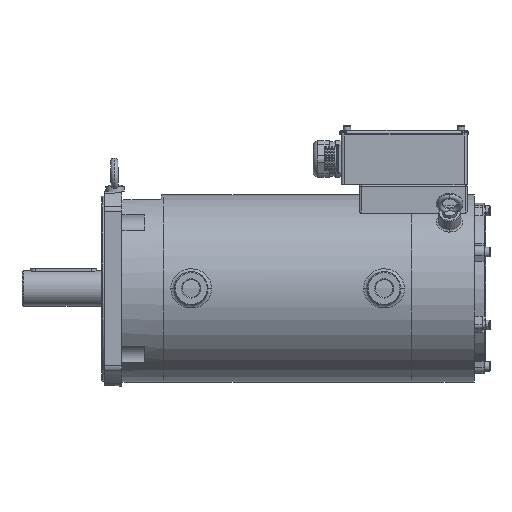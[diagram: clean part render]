
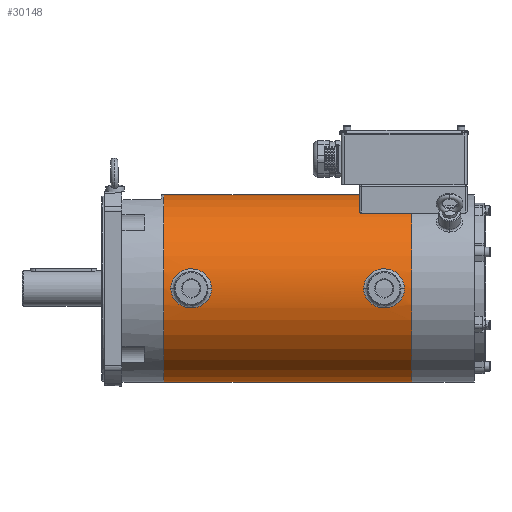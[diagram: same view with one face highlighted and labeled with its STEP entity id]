
A CAD part, top view. The second image highlights one B-rep face of the part: STEP entity #30148.
In plain terms, the highlighted cylindrical face has radius 126.5 mm (diameter 253 mm), a partial arc.
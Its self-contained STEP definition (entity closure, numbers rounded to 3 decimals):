
#24479=DIRECTION('',(-1.,0.,0.));
#24480=VECTOR('',#24479,334.5);
#24481=CARTESIAN_POINT('',(526.,126.5,
0.011));
#24482=LINE('',#24481,#24480);
#24564=CARTESIAN_POINT('',(526.,0.,0.));
#24565=DIRECTION('',(1.,0.,0.));
#24566=DIRECTION('',(0.,1.,0.));
#24567=AXIS2_PLACEMENT_3D('',#24564,#24565,#24566);
#24569=DIRECTION('',(-1.,0.,0.));
#24570=VECTOR('',#24569,334.5);
#24571=CARTESIAN_POINT('',(526.,-126.5,
-0.011));
#24572=LINE('',#24571,#24570);
#24573=CARTESIAN_POINT('',(191.5,0.,0.));
#24574=DIRECTION('',(-1.,0.,0.));
#24575=DIRECTION('',(0.,-1.,0.));
#24576=AXIS2_PLACEMENT_3D('',#24573,#24574,#24575);
#24578=CARTESIAN_POINT('',(461.5,-0.011,
126.5));
#24579=CARTESIAN_POINT('',(461.5,-1.831,
126.5));
#24580=CARTESIAN_POINT('',(461.881,-5.406,
126.422));
#24581=CARTESIAN_POINT('',(463.611,-10.665,
126.084));
#24582=CARTESIAN_POINT('',(466.457,-15.501,
125.575));
#24583=CARTESIAN_POINT('',(470.354,-19.729,
124.972));
#24584=CARTESIAN_POINT('',(475.123,-23.084,
124.387));
#24585=CARTESIAN_POINT('',(480.512,-25.385,
123.931));
#24586=CARTESIAN_POINT('',(486.278,-26.537,
123.685));
#24587=CARTESIAN_POINT('',(492.171,-26.491,
123.695));
#24588=CARTESIAN_POINT('',(497.931,-25.245,
123.96));
#24589=CARTESIAN_POINT('',(503.286,-22.851,
124.431));
#24590=CARTESIAN_POINT('',(507.956,-19.442,
125.017));
#24591=CARTESIAN_POINT('',(511.698,-15.282,
125.601));
#24592=CARTESIAN_POINT('',(514.517,-10.394,
126.108));
#24593=CARTESIAN_POINT('',(516.176,-5.093,
126.434));
#24594=CARTESIAN_POINT('',(516.5,-1.703,
126.5));
#24595=CARTESIAN_POINT('',(516.5,-0.011,
126.5));
#24597=CARTESIAN_POINT('',(516.5,-0.011,
126.5));
#24598=CARTESIAN_POINT('',(516.5,1.809,126.5));
#24599=CARTESIAN_POINT('',(516.119,5.383,126.423));
#24600=CARTESIAN_POINT('',(514.389,10.643,126.086));
#24601=CARTESIAN_POINT('',(511.543,15.481,125.577));
#24602=CARTESIAN_POINT('',(507.645,19.709,124.975));
#24603=CARTESIAN_POINT('',(502.876,23.063,124.391));
#24604=CARTESIAN_POINT('',(497.487,25.363,123.935));
#24605=CARTESIAN_POINT('',(491.722,26.515,123.69));
#24606=CARTESIAN_POINT('',(485.83,26.47,123.7));
#24607=CARTESIAN_POINT('',(480.071,25.223,123.964));
#24608=CARTESIAN_POINT('',(474.716,22.831,124.434));
#24609=CARTESIAN_POINT('',(470.046,19.421,125.02));
#24610=CARTESIAN_POINT('',(466.302,15.261,125.604));
#24611=CARTESIAN_POINT('',(463.483,10.372,126.11));
#24612=CARTESIAN_POINT('',(461.824,5.071,126.435));
#24613=CARTESIAN_POINT('',(461.5,1.681,126.5));
#24614=CARTESIAN_POINT('',(461.5,-0.011,
126.5));
#24616=CARTESIAN_POINT('',(201.,-0.011,
126.5));
#24617=CARTESIAN_POINT('',(201.,-1.831,
126.5));
#24618=CARTESIAN_POINT('',(201.381,-5.406,
126.422));
#24619=CARTESIAN_POINT('',(203.111,-10.665,
126.084));
#24620=CARTESIAN_POINT('',(205.957,-15.501,
125.575));
#24621=CARTESIAN_POINT('',(209.854,-19.729,
124.972));
#24622=CARTESIAN_POINT('',(214.623,-23.084,
124.387));
#24623=CARTESIAN_POINT('',(220.012,-25.385,
123.931));
#24624=CARTESIAN_POINT('',(225.778,-26.537,
123.685));
#24625=CARTESIAN_POINT('',(231.671,-26.491,
123.695));
#24626=CARTESIAN_POINT('',(237.431,-25.245,
123.96));
#24627=CARTESIAN_POINT('',(242.786,-22.851,
124.431));
#24628=CARTESIAN_POINT('',(247.456,-19.442,
125.017));
#24629=CARTESIAN_POINT('',(251.198,-15.282,
125.601));
#24630=CARTESIAN_POINT('',(254.017,-10.394,
126.108));
#24631=CARTESIAN_POINT('',(255.676,-5.093,
126.434));
#24632=CARTESIAN_POINT('',(256.,-1.703,
126.5));
#24633=CARTESIAN_POINT('',(256.,-0.011,
126.5));
#24635=CARTESIAN_POINT('',(256.,-0.011,
126.5));
#24636=CARTESIAN_POINT('',(256.,1.809,126.5));
#24637=CARTESIAN_POINT('',(255.619,5.383,126.423));
#24638=CARTESIAN_POINT('',(253.889,10.643,126.086));
#24639=CARTESIAN_POINT('',(251.043,15.481,125.577));
#24640=CARTESIAN_POINT('',(247.145,19.709,124.975));
#24641=CARTESIAN_POINT('',(242.376,23.063,124.391));
#24642=CARTESIAN_POINT('',(236.987,25.363,123.935));
#24643=CARTESIAN_POINT('',(231.222,26.515,123.69));
#24644=CARTESIAN_POINT('',(225.33,26.47,123.7));
#24645=CARTESIAN_POINT('',(219.571,25.223,123.964));
#24646=CARTESIAN_POINT('',(214.216,22.831,124.434));
#24647=CARTESIAN_POINT('',(209.546,19.421,125.02));
#24648=CARTESIAN_POINT('',(205.802,15.261,125.604));
#24649=CARTESIAN_POINT('',(202.983,10.372,126.11));
#24650=CARTESIAN_POINT('',(201.324,5.071,126.435));
#24651=CARTESIAN_POINT('',(201.,1.681,126.5));
#24652=CARTESIAN_POINT('',(201.,-0.011,
126.5));
#29816=CARTESIAN_POINT('',(526.,126.5,
0.011));
#29817=CARTESIAN_POINT('',(526.,-126.5,
-0.011));
#29818=VERTEX_POINT('',#29816);
#29819=VERTEX_POINT('',#29817);
#29820=CARTESIAN_POINT('',(191.5,126.5,
0.011));
#29821=CARTESIAN_POINT('',(191.5,-126.5,
-0.011));
#29822=VERTEX_POINT('',#29820);
#29823=VERTEX_POINT('',#29821);
#30055=VERTEX_POINT('',#24578);
#30056=VERTEX_POINT('',#24595);
#30059=VERTEX_POINT('',#24616);
#30060=VERTEX_POINT('',#24633);
#30123=CARTESIAN_POINT('',(526.,0.,0.));
#30124=DIRECTION('',(-1.,0.,0.));
#30125=DIRECTION('',(0.,1.,0.));
#30126=AXIS2_PLACEMENT_3D('',#30123,#30124,#30125);
#30127=CYLINDRICAL_SURFACE('',#30126,126.5);
#30129=ORIENTED_EDGE('',*,*,#30128,.T.);
#30130=ORIENTED_EDGE('',*,*,#30106,.T.);
#30132=ORIENTED_EDGE('',*,*,#30131,.T.);
#30133=ORIENTED_EDGE('',*,*,#30102,.F.);
#30134=EDGE_LOOP('',(#30129,#30130,#30132,#30133));
#30135=FACE_OUTER_BOUND('',#30134,.F.);
#30137=ORIENTED_EDGE('',*,*,#30136,.T.);
#30139=ORIENTED_EDGE('',*,*,#30138,.T.);
#30140=EDGE_LOOP('',(#30137,#30139));
#30141=FACE_BOUND('',#30140,.F.);
#30143=ORIENTED_EDGE('',*,*,#30142,.T.);
#30145=ORIENTED_EDGE('',*,*,#30144,.T.);
#30146=EDGE_LOOP('',(#30143,#30145));
#30147=FACE_BOUND('',#30146,.F.);
#30148=ADVANCED_FACE('',(#30135,#30141,#30147),#30127,.T.);
#24568=CIRCLE('',#24567,126.5);
#24577=CIRCLE('',#24576,126.5);
#24596=B_SPLINE_CURVE_WITH_KNOTS('',3,(#24578,#24579,#24580,#24581,#24582,
#24583,#24584,#24585,#24586,#24587,#24588,#24589,#24590,#24591,#24592,#24593,
#24594,#24595),.UNSPECIFIED.,.F.,.F.,(4,1,1,1,1,1,1,1,1,1,1,1,1,1,1,4),(0.,
0.067,0.133,0.2,0.267,0.333,
0.4,0.467,0.533,0.6,0.667,
0.733,0.8,0.867,0.933,1.),
.UNSPECIFIED.);
#24615=B_SPLINE_CURVE_WITH_KNOTS('',3,(#24597,#24598,#24599,#24600,#24601,
#24602,#24603,#24604,#24605,#24606,#24607,#24608,#24609,#24610,#24611,#24612,
#24613,#24614),.UNSPECIFIED.,.F.,.F.,(4,1,1,1,1,1,1,1,1,1,1,1,1,1,1,4),(0.,
0.067,0.133,0.2,0.267,0.333,
0.4,0.467,0.533,0.6,0.667,
0.733,0.8,0.867,0.933,1.),
.UNSPECIFIED.);
#24634=B_SPLINE_CURVE_WITH_KNOTS('',3,(#24616,#24617,#24618,#24619,#24620,
#24621,#24622,#24623,#24624,#24625,#24626,#24627,#24628,#24629,#24630,#24631,
#24632,#24633),.UNSPECIFIED.,.F.,.F.,(4,1,1,1,1,1,1,1,1,1,1,1,1,1,1,4),(0.,
0.067,0.133,0.2,0.267,0.333,
0.4,0.467,0.533,0.6,0.667,
0.733,0.8,0.867,0.933,1.),
.UNSPECIFIED.);
#24653=B_SPLINE_CURVE_WITH_KNOTS('',3,(#24635,#24636,#24637,#24638,#24639,
#24640,#24641,#24642,#24643,#24644,#24645,#24646,#24647,#24648,#24649,#24650,
#24651,#24652),.UNSPECIFIED.,.F.,.F.,(4,1,1,1,1,1,1,1,1,1,1,1,1,1,1,4),(0.,
0.067,0.133,0.2,0.267,0.333,
0.4,0.467,0.533,0.6,0.667,
0.733,0.8,0.867,0.933,1.),
.UNSPECIFIED.);
#30102=EDGE_CURVE('',#29818,#29822,#24482,.T.);
#30106=EDGE_CURVE('',#29819,#29823,#24572,.T.);
#30128=EDGE_CURVE('',#29818,#29819,#24568,.T.);
#30131=EDGE_CURVE('',#29823,#29822,#24577,.T.);
#30136=EDGE_CURVE('',#30055,#30056,#24596,.T.);
#30138=EDGE_CURVE('',#30056,#30055,#24615,.T.);
#30142=EDGE_CURVE('',#30059,#30060,#24634,.T.);
#30144=EDGE_CURVE('',#30060,#30059,#24653,.T.);
